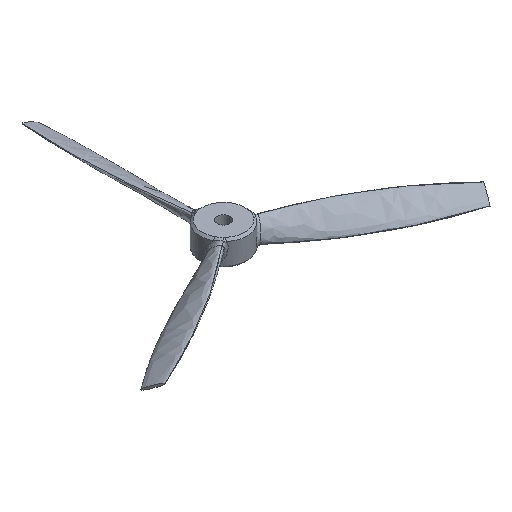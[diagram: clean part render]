
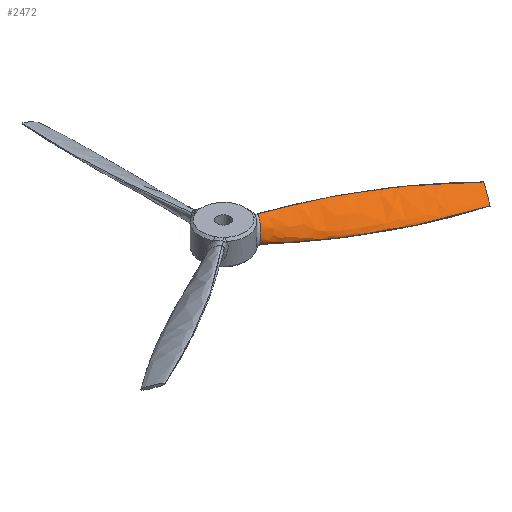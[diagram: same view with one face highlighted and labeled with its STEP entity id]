
A CAD part, isometric view. The second image highlights one B-rep face of the part: STEP entity #2472.
In plain terms, the highlighted free-form (B-spline) face has degree [3, 3] with [7, 5] control points.
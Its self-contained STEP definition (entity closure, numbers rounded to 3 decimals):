
#718=CARTESIAN_POINT('',(11.9,-3.67,4.257));
#719=CARTESIAN_POINT('',(11.896,-3.764,4.314));
#720=CARTESIAN_POINT('',(11.873,-3.977,4.407));
#721=CARTESIAN_POINT('',(11.764,-4.356,4.462));
#722=CARTESIAN_POINT('',(11.551,-4.842,4.391));
#723=CARTESIAN_POINT('',(11.273,-5.345,4.173));
#724=CARTESIAN_POINT('',(11.026,-5.742,3.914));
#725=CARTESIAN_POINT('',(10.791,-6.092,3.628));
#726=CARTESIAN_POINT('',(10.538,-6.443,3.282));
#727=CARTESIAN_POINT('',(10.284,-6.774,2.9));
#728=CARTESIAN_POINT('',(10.034,-7.078,2.495));
#729=CARTESIAN_POINT('',(9.794,-7.355,2.073));
#730=CARTESIAN_POINT('',(9.562,-7.607,1.635));
#731=CARTESIAN_POINT('',(9.332,-7.844,1.163));
#732=CARTESIAN_POINT('',(9.102,-8.073,0.633));
#733=CARTESIAN_POINT('',(8.87,-8.296,0.021));
#734=CARTESIAN_POINT('',(8.651,-8.502,
-0.686));
#735=CARTESIAN_POINT('',(8.47,-8.675,-1.485));
#736=CARTESIAN_POINT('',(8.382,-8.781,-2.354));
#737=CARTESIAN_POINT('',(8.445,-8.787,-3.105));
#738=CARTESIAN_POINT('',(8.628,-8.721,-3.67));
#739=CARTESIAN_POINT('',(8.874,-8.614,-4.047));
#740=CARTESIAN_POINT('',(9.046,-8.522,-4.198));
#741=CARTESIAN_POINT('',(9.128,-8.471,-4.257));
#743=CARTESIAN_POINT('',(11.9,-3.67,4.257));
#744=CARTESIAN_POINT('',(22.314,-7.537,4.459));
#745=CARTESIAN_POINT('',(46.16,-18.142,4.426));
#746=CARTESIAN_POINT('',(68.035,-32.16,3.177));
#747=CARTESIAN_POINT('',(80.02,-41.402,2.05));
#769=CARTESIAN_POINT('',(9.128,-8.471,-4.257));
#770=CARTESIAN_POINT('',(17.685,-15.556,-4.459));
#771=CARTESIAN_POINT('',(38.791,-30.905,-4.426));
#772=CARTESIAN_POINT('',(61.869,-42.84,-3.177));
#773=CARTESIAN_POINT('',(75.865,-48.598,-2.05));
#775=CARTESIAN_POINT('',(75.865,-48.598,-2.05));
#781=CARTESIAN_POINT('',(80.02,-41.402,2.05));
#783=CARTESIAN_POINT('',(80.02,-41.402,2.05));
#784=CARTESIAN_POINT('',(79.985,-41.463,2.193));
#785=CARTESIAN_POINT('',(79.465,-42.363,2.035));
#786=CARTESIAN_POINT('',(77.793,-45.259,0.606));
#787=CARTESIAN_POINT('',(76.209,-48.003,-1.178));
#788=CARTESIAN_POINT('',(75.829,-48.66,-1.907));
#789=CARTESIAN_POINT('',(75.865,-48.598,-2.05));
#803=VERTEX_POINT('',#775);
#804=VERTEX_POINT('',#781);
#807=VERTEX_POINT('',#718);
#808=VERTEX_POINT('',#741);
#2427=CARTESIAN_POINT('',(10.939,-2.824,3.719));
#2428=CARTESIAN_POINT('',(21.674,-6.974,3.865));
#2429=CARTESIAN_POINT('',(46.009,-18.087,3.808));
#2430=CARTESIAN_POINT('',(68.399,-32.567,2.702));
#2431=CARTESIAN_POINT('',(80.593,-41.966,1.768));
#2432=CARTESIAN_POINT('',(10.718,-3.206,4.6));
#2433=CARTESIAN_POINT('',(21.644,-7.025,4.864));
#2434=CARTESIAN_POINT('',(46.262,-17.648,4.85));
#2435=CARTESIAN_POINT('',(68.662,-32.111,3.453));
#2436=CARTESIAN_POINT('',(80.767,-41.664,2.159));
#2437=CARTESIAN_POINT('',(9.763,-4.861,4.626));
#2438=CARTESIAN_POINT('',(20.639,-8.767,5.002));
#2439=CARTESIAN_POINT('',(45.277,-19.354,5.158));
#2440=CARTESIAN_POINT('',(67.946,-33.351,3.584));
#2441=CARTESIAN_POINT('',(80.291,-42.489,2.129));
#2442=CARTESIAN_POINT('',(8.263,-7.46,1.369));
#2443=CARTESIAN_POINT('',(18.351,-12.73,1.636));
#2444=CARTESIAN_POINT('',(41.878,-25.24,1.877));
#2445=CARTESIAN_POINT('',(65.187,-38.131,1.236));
#2446=CARTESIAN_POINT('',(78.47,-45.642,
0.573));
#2447=CARTESIAN_POINT('',(7.525,-8.737,
-2.785));
#2448=CARTESIAN_POINT('',(16.664,-15.652,
-2.807));
#2449=CARTESIAN_POINT('',(38.784,-30.6,
-2.626));
#2450=CARTESIAN_POINT('',(62.569,-42.665,
-1.935));
#2451=CARTESIAN_POINT('',(76.745,-48.63,
-1.358));
#2452=CARTESIAN_POINT('',(7.992,-7.929,
-4.429));
#2453=CARTESIAN_POINT('',(16.801,-15.414,
-4.65));
#2454=CARTESIAN_POINT('',(38.352,-31.349,
-4.634));
#2455=CARTESIAN_POINT('',(62.111,-43.459,
-3.272));
#2456=CARTESIAN_POINT('',(76.448,-49.146,
-2.089));
#2457=CARTESIAN_POINT('',(8.489,-7.068,
-4.395));
#2458=CARTESIAN_POINT('',(17.322,-14.512,
-4.684));
#2459=CARTESIAN_POINT('',(38.901,-30.398,
-4.714));
#2460=CARTESIAN_POINT('',(62.512,-42.763,
-3.341));
#2461=CARTESIAN_POINT('',(76.712,-48.688,
-2.049));
#2462=B_SPLINE_SURFACE_WITH_KNOTS('',3,3,((#2427,#2428,#2429,#2430,#2431),
(#2432,#2433,#2434,#2435,#2436),(#2437,#2438,#2439,#2440,#2441),(#2442,#2443,
#2444,#2445,#2446),(#2447,#2448,#2449,#2450,#2451),(#2452,#2453,#2454,#2455,
#2456),(#2457,#2458,#2459,#2460,#2461)),.UNSPECIFIED.,.F.,.F.,.F.,(4,1,1,1,4),
(4,1,4),(-0.088,0.25,0.5,0.75,1.088),(
0.885,35.,80.778),.UNSPECIFIED.);
#2463=ORIENTED_EDGE('',*,*,#2419,.F.);
#2465=ORIENTED_EDGE('',*,*,#2464,.T.);
#2467=ORIENTED_EDGE('',*,*,#2466,.T.);
#2469=ORIENTED_EDGE('',*,*,#2468,.F.);
#2470=EDGE_LOOP('',(#2463,#2465,#2467,#2469));
#2471=FACE_OUTER_BOUND('',#2470,.F.);
#742=B_SPLINE_CURVE_WITH_KNOTS('',3,(#718,#719,#720,#721,#722,#723,#724,#725,
#726,#727,#728,#729,#730,#731,#732,#733,#734,#735,#736,#737,#738,#739,#740,
#741),.UNSPECIFIED.,.F.,.F.,(4,1,1,1,1,1,1,1,1,1,1,1,1,1,1,1,1,1,1,1,1,4),(0.,
0.048,0.095,0.143,0.19,
0.238,0.286,0.333,0.381,
0.429,0.476,0.524,0.571,
0.619,0.667,0.714,0.762,
0.81,0.857,0.905,0.952,1.),
.UNSPECIFIED.);
#748=B_SPLINE_CURVE_WITH_KNOTS('',3,(#743,#744,#745,#746,#747),.UNSPECIFIED.,
.F.,.F.,(4,1,4),(0.,0.422,1.),.UNSPECIFIED.);
#774=B_SPLINE_CURVE_WITH_KNOTS('',3,(#769,#770,#771,#772,#773),.UNSPECIFIED.,
.F.,.F.,(4,1,4),(0.,0.422,1.),.UNSPECIFIED.);
#790=B_SPLINE_CURVE_WITH_KNOTS('',3,(#783,#784,#785,#786,#787,#788,#789),
.UNSPECIFIED.,.F.,.F.,(4,1,1,1,4),(0.,0.25,0.5,0.75,1.),
.UNSPECIFIED.);
#2419=EDGE_CURVE('',#807,#808,#742,.T.);
#2464=EDGE_CURVE('',#807,#804,#748,.T.);
#2466=EDGE_CURVE('',#804,#803,#790,.T.);
#2468=EDGE_CURVE('',#808,#803,#774,.T.);
#2472=ADVANCED_FACE('',(#2471),#2462,.T.);
